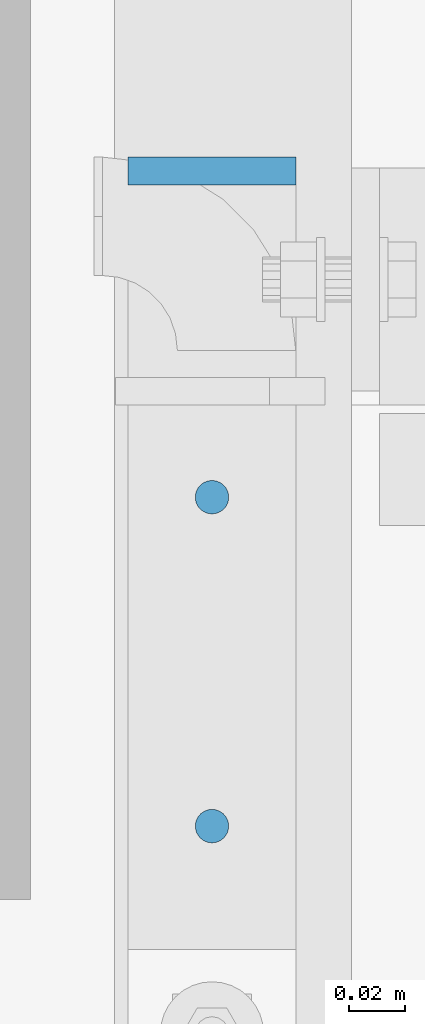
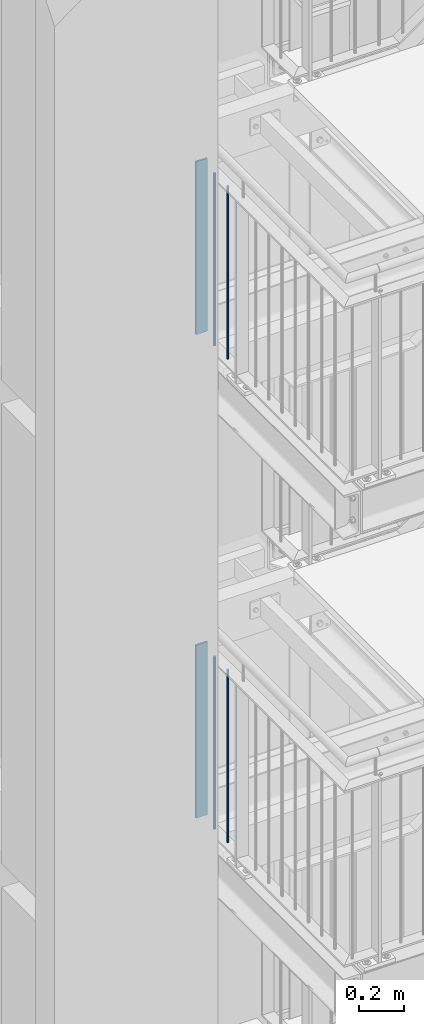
# One storey, part 15 of 825: 6 columns.
"""IFC2X3 building model written with IfcOpenShell, lengths in millimetres."""

from ifc_helpers import new_model, entity, si_unit, converted_unit, frame, origin, origin_with_axes, origin_2d, place, context, project, spatial, rectangle, circle, extrude, clip, halfspace, material, element, save


model = new_model("IFC2X3")

# Units and contexts
model_context = context("Model", 3, precision=1e-09, world=origin_with_axes())
ifc_project = project(units=[si_unit("LENGTHUNIT", "METRE", prefix="MILLI"), si_unit("AREAUNIT", "SQUARE_METRE"), si_unit("VOLUMEUNIT", "CUBIC_METRE"), converted_unit("PLANEANGLEUNIT", "DEGREE", entity("IfcPlaneAngleMeasure", 0.01745329), si_unit("PLANEANGLEUNIT", "RADIAN"), dimensions=[0, 0, 0, 0, 0, 0, 0])], contexts=[model_context])

# Site, building, storey
site_placement = place(None, origin_with_axes())
site = spatial("IfcSite", under=ifc_project, at=site_placement, Name="Cnopf'sche Kinderklinik", CompositionType="ELEMENT")
building_placement = place(site_placement, origin_with_axes())
building = spatial("IfcBuilding", under=site, at=building_placement, Name="Struktur 1", CompositionType="ELEMENT")
storey_placement = place(building_placement, origin_with_axes())
storey = spatial("IfcBuildingStorey", under=building, at=storey_placement, Name="Default Storey", CompositionType="ELEMENT", Elevation=0.0)

# Columns
ifc_material = material(Name="S235JR")
column_1_placement = place(None, frame((3271.713402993, 5585.988971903, 13601.285281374), z_axis=(0.0, 0.0, -1.0), x_axis=(0.0, -1.0, 0.0)))
element("IfcColumn", 1, at=column_1_placement, inside=storey, material=ifc_material, Name="Railing_Picket_Landing#97", ObjectType="Railing_Picket_Landing#97", context=model_context, shape_type="Clipping", body=[
    clip(clip(extrude(circle(Radius=6.0, at=origin_2d()), origin(), (0.0, 0.0, 1.0), 965.770562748), halfspace(frame((5585.9889719, 3271.713402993, 13.486281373), z_axis=(0.0, 0.0, 1.0), x_axis=(0.0, 1.0, 0.0)), True)), halfspace(frame((5585.9889719, 3271.713402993, 952.284281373), z_axis=(0.0, 0.0, -1.0), x_axis=(0.0, -1.0, 0.0)), True)),
])
column_2_placement = place(None, frame((3271.713402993, 5703.786135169, 13601.285281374), z_axis=(0.0, 0.0, -1.0), x_axis=(0.0, -1.0, 0.0)))
element("IfcColumn", 2, at=column_2_placement, inside=storey, material=ifc_material, Name="Railing_Picket_Landing#96", ObjectType="Railing_Picket_Landing#96", context=model_context, shape_type="Clipping", body=[
    clip(clip(extrude(circle(Radius=6.0, at=origin_2d()), origin(), (0.0, 0.0, 1.0), 965.770562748), halfspace(frame((5703.786135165, 3271.713402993, 13.486281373), z_axis=(0.0, 0.0, 1.0), x_axis=(0.0, 1.0, 0.0)), True)), halfspace(frame((5703.786135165, 3271.713402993, 952.284281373), z_axis=(0.0, 0.0, -1.0), x_axis=(0.0, -1.0, 0.0)), True)),
])
column_3_placement = place(None, frame((3271.713402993, 5820.583298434, 12649.0), z_axis=(0.0, 0.0, -1.0), x_axis=(0.0, 1.0, 0.0)))
element("IfcColumn", 3, at=column_3_placement, inside=storey, material=ifc_material, Name="Railing_Kneerail_Landing#22", ObjectType="Railing_Kneerail_Landing#22", context=model_context, shape_type="SweptSolid", body=[
    extrude(rectangle(XDim=10.0, YDim=60.0, at=origin_2d()), origin(), (0.0, 0.0, -1.0), 938.8),
])
column_4_placement = place(None, frame((3271.713402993, 5585.988971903, 10974.285281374), z_axis=(0.0, 0.0, -1.0), x_axis=(0.0, -1.0, 0.0)))
element("IfcColumn", 4, at=column_4_placement, inside=storey, material=ifc_material, Name="Railing_Picket_Landing#97", ObjectType="Railing_Picket_Landing#97", context=model_context, shape_type="Clipping", body=[
    clip(clip(extrude(circle(Radius=6.0, at=origin_2d()), origin(), (0.0, 0.0, 1.0), 965.770562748), halfspace(frame((5585.9889719, 3271.713402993, 13.486281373), z_axis=(0.0, 0.0, 1.0), x_axis=(0.0, 1.0, 0.0)), True)), halfspace(frame((5585.988971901, 3271.713402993, 952.284281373), z_axis=(0.0, 0.0, -1.0), x_axis=(0.0, -1.0, 0.0)), True)),
])
column_5_placement = place(None, frame((3271.713402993, 5703.786135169, 10974.285281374), z_axis=(0.0, 0.0, -1.0), x_axis=(0.0, -1.0, 0.0)))
element("IfcColumn", 5, at=column_5_placement, inside=storey, material=ifc_material, Name="Railing_Picket_Landing#96", ObjectType="Railing_Picket_Landing#96", context=model_context, shape_type="Clipping", body=[
    clip(clip(extrude(circle(Radius=6.0, at=origin_2d()), origin(), (0.0, 0.0, 1.0), 965.770562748), halfspace(frame((5703.786135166, 3271.713402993, 13.486281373), z_axis=(0.0, 0.0, 1.0), x_axis=(0.0, 1.0, 0.0)), True)), halfspace(frame((5703.786135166, 3271.713402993, 952.284281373), z_axis=(0.0, 0.0, -1.0), x_axis=(0.0, -1.0, 0.0)), True)),
])
column_6_placement = place(None, frame((3271.713402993, 5820.583298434, 10022.0), z_axis=(0.0, 0.0, -1.0), x_axis=(0.0, 1.0, 0.0)))
element("IfcColumn", 6, at=column_6_placement, inside=storey, material=ifc_material, Name="Railing_Kneerail_Landing#22", ObjectType="Railing_Kneerail_Landing#22", context=model_context, shape_type="SweptSolid", body=[
    extrude(rectangle(XDim=10.0, YDim=60.0, at=origin_2d()), origin(), (0.0, 0.0, -1.0), 938.8),
])

save(model, "model.ifc")
